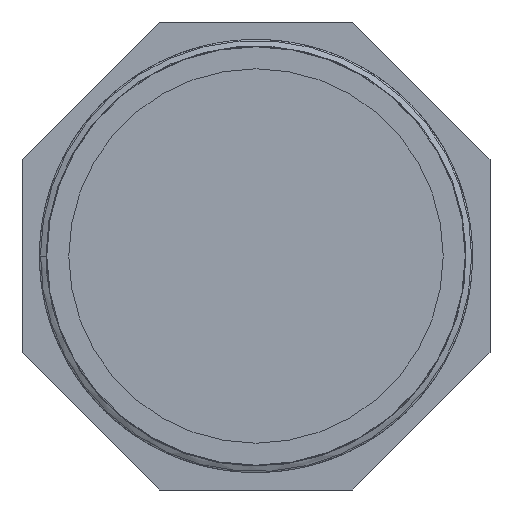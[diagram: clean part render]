
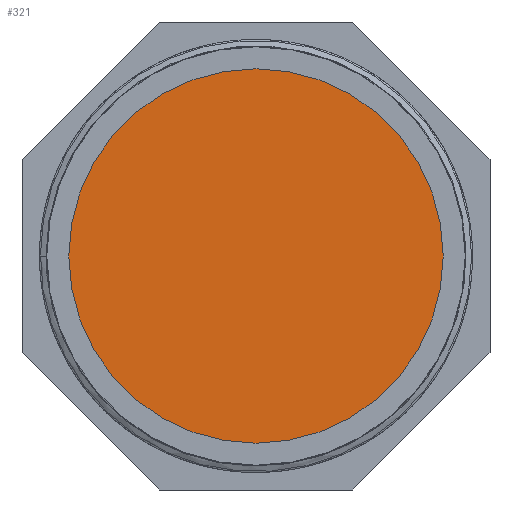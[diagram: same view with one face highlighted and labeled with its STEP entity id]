
A CAD part, front view. The second image highlights one B-rep face of the part: STEP entity #321.
In plain terms, the highlighted planar face has unit normal (0, -1, 0).
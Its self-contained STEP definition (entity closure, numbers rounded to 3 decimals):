
#22=PLANE('',#342);
#37=CIRCLE('',#343,38.);
#47=FACE_OUTER_BOUND('',#68,.T.);
#68=EDGE_LOOP('',(#263));
#166=VERTEX_POINT('',#6897);
#202=EDGE_CURVE('',#166,#166,#37,.T.);
#263=ORIENTED_EDGE('',*,*,#202,.F.);
#321=ADVANCED_FACE('',(#47),#22,.T.);
#342=AXIS2_PLACEMENT_3D('',#6896,#383,#384);
#343=AXIS2_PLACEMENT_3D('',#6898,#385,#386);
#383=DIRECTION('center_axis',(0.,-1.,0.));
#384=DIRECTION('ref_axis',(0.,0.,-1.));
#385=DIRECTION('center_axis',(0.,1.,0.));
#386=DIRECTION('ref_axis',(1.,0.,0.));
#6896=CARTESIAN_POINT('Origin',(0.,38.,0.));
#6897=CARTESIAN_POINT('',(-38.,38.,0.));
#6898=CARTESIAN_POINT('Origin',(0.,38.,0.));
